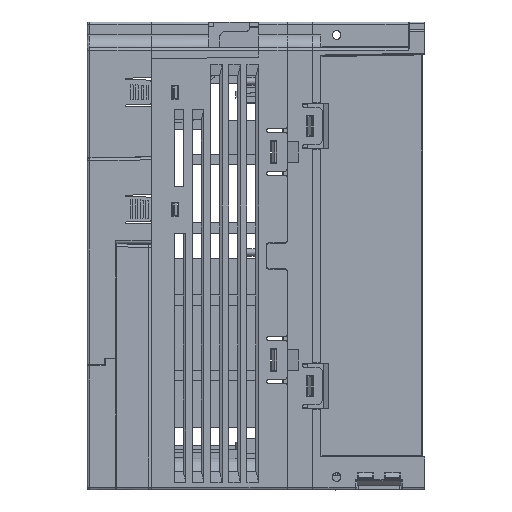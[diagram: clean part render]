
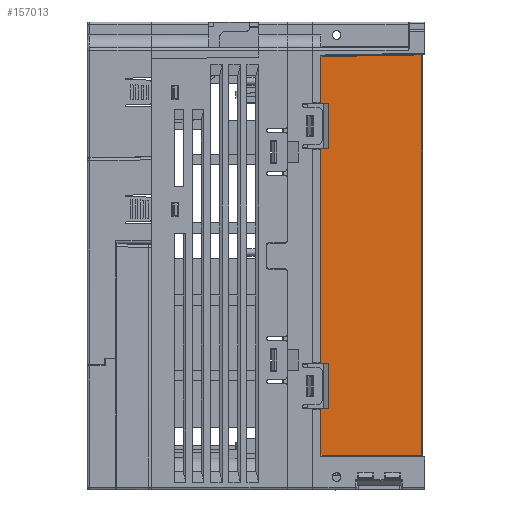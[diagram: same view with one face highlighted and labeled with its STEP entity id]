
A CAD part, left-side view. The second image highlights one B-rep face of the part: STEP entity #157013.
In plain terms, the highlighted planar face has unit normal (-1, 0, 0).
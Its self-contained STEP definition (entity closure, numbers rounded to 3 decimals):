
#36793 = VECTOR ( 'NONE', #153221, 1000. ) ;
#36804 = CIRCLE ( 'NONE', #198488, 0.3 ) ;
#36811 = LINE ( 'NONE', #153187, #36793 ) ;
#81589 = LINE ( 'NONE', #152683, #81636 ) ;
#81636 = VECTOR ( 'NONE', #152642, 1000. ) ;
#81965 = LINE ( 'NONE', #134111, #81982 ) ;
#81982 = VECTOR ( 'NONE', #134122, 1000. ) ;
#81986 = VECTOR ( 'NONE', #134228, 1000. ) ;
#82000 = LINE ( 'NONE', #133543, #82001 ) ;
#82001 = VECTOR ( 'NONE', #133563, 1000. ) ;
#82021 = LINE ( 'NONE', #134321, #81986 ) ;
#82035 = VECTOR ( 'NONE', #135727, 1000. ) ;
#82047 = LINE ( 'NONE', #135570, #82035 ) ;
#82115 = LINE ( 'NONE', #140803, #82138 ) ;
#82138 = VECTOR ( 'NONE', #140799, 1000. ) ;
#82287 = LINE ( 'NONE', #152755, #82398 ) ;
#82339 = LINE ( 'NONE', #152185, #82340 ) ;
#82340 = VECTOR ( 'NONE', #152182, 1000. ) ;
#82341 = LINE ( 'NONE', #152196, #82359 ) ;
#82343 = LINE ( 'NONE', #152112, #82346 ) ;
#82346 = VECTOR ( 'NONE', #152403, 1000. ) ;
#82353 = VECTOR ( 'NONE', #151483, 1000. ) ;
#82359 = VECTOR ( 'NONE', #152103, 1000. ) ;
#82368 = LINE ( 'NONE', #151297, #82353 ) ;
#82398 = VECTOR ( 'NONE', #152630, 1000. ) ;
#82416 = CIRCLE ( 'NONE', #198489, 0.3 ) ;
#82420 = CIRCLE ( 'NONE', #198542, 0.3 ) ;
#82476 = CIRCLE ( 'NONE', #198548, 0.3 ) ;
#96743 = FACE_OUTER_BOUND ( 'NONE', #97618, .T. ) ;
#97618 = EDGE_LOOP ( 'NONE', ( #135943, #135938, #135861, #135834, #135829, #135984, #135877, #135899, #135886, #135946, #135967, #135970, #135916, #135823, #135826, #135935 ) ) ;
#133543 = CARTESIAN_POINT ( 'NONE',  ( -33., -5., -13. ) ) ;
#133563 = DIRECTION ( 'NONE',  ( 0., 0., -1. ) ) ;
#134111 = CARTESIAN_POINT ( 'NONE',  ( -33., -43.7, -12.642 ) ) ;
#134122 = DIRECTION ( 'NONE',  ( 0., 1., -0.017 ) ) ;
#134228 = DIRECTION ( 'NONE',  ( 0., 0., -1. ) ) ;
#134321 = CARTESIAN_POINT ( 'NONE',  ( -33., -5., -13. ) ) ;
#135570 = CARTESIAN_POINT ( 'NONE',  ( -33., -44., -166.7 ) ) ;
#135727 = DIRECTION ( 'NONE',  ( 0., -1., 0. ) ) ;
#135823 = ORIENTED_EDGE ( 'NONE', *, *, #251333, .F. ) ;
#135826 = ORIENTED_EDGE ( 'NONE', *, *, #251319, .T. ) ;
#135829 = ORIENTED_EDGE ( 'NONE', *, *, #251615, .T. ) ;
#135834 = ORIENTED_EDGE ( 'NONE', *, *, #251685, .F. ) ;
#135861 = ORIENTED_EDGE ( 'NONE', *, *, #251158, .T. ) ;
#135877 = ORIENTED_EDGE ( 'NONE', *, *, #250271, .T. ) ;
#135886 = ORIENTED_EDGE ( 'NONE', *, *, #250034, .T. ) ;
#135899 = ORIENTED_EDGE ( 'NONE', *, *, #251466, .T. ) ;
#135916 = ORIENTED_EDGE ( 'NONE', *, *, #251489, .F. ) ;
#135935 = ORIENTED_EDGE ( 'NONE', *, *, #249975, .T. ) ;
#135938 = ORIENTED_EDGE ( 'NONE', *, *, #251328, .F. ) ;
#135943 = ORIENTED_EDGE ( 'NONE', *, *, #251439, .T. ) ;
#135946 = ORIENTED_EDGE ( 'NONE', *, *, #250299, .T. ) ;
#135967 = ORIENTED_EDGE ( 'NONE', *, *, #251311, .T. ) ;
#135970 = ORIENTED_EDGE ( 'NONE', *, *, #251323, .F. ) ;
#135984 = ORIENTED_EDGE ( 'NONE', *, *, #250068, .T. ) ;
#140799 = DIRECTION ( 'NONE',  ( 0., 0., -1. ) ) ;
#140803 = CARTESIAN_POINT ( 'NONE',  ( -33., -5., -13. ) ) ;
#143276 = CARTESIAN_POINT ( 'NONE',  ( -33., -43.7, -166.7 ) ) ;
#143294 = CARTESIAN_POINT ( 'NONE',  ( -33., -5., -166.7 ) ) ;
#143636 = CARTESIAN_POINT ( 'NONE',  ( -33., -5., -13.318 ) ) ;
#144130 = CARTESIAN_POINT ( 'NONE',  ( -33., -43.7, -12.642 ) ) ;
#144170 = CARTESIAN_POINT ( 'NONE',  ( -33., -5., -31. ) ) ;
#144513 = CARTESIAN_POINT ( 'NONE',  ( -33., -5., -149. ) ) ;
#144602 = CARTESIAN_POINT ( 'NONE',  ( -33., -5., -49. ) ) ;
#144654 = CARTESIAN_POINT ( 'NONE',  ( -33., -5., -131. ) ) ;
#151297 = CARTESIAN_POINT ( 'NONE',  ( -33., -8., -13. ) ) ;
#151483 = DIRECTION ( 'NONE',  ( 0., 0., -1. ) ) ;
#152089 = DIRECTION ( 'NONE',  ( 0., 0., 1. ) ) ;
#152095 = CARTESIAN_POINT ( 'NONE',  ( -33., -4.7, -31. ) ) ;
#152103 = DIRECTION ( 'NONE',  ( 0., 1., 0. ) ) ;
#152112 = CARTESIAN_POINT ( 'NONE',  ( -33., -6., -48.7 ) ) ;
#152140 = DIRECTION ( 'NONE',  ( 1., 0., 0. ) ) ;
#152178 = DIRECTION ( 'NONE',  ( 1., 0., 0. ) ) ;
#152182 = DIRECTION ( 'NONE',  ( 0., 1., 0. ) ) ;
#152185 = CARTESIAN_POINT ( 'NONE',  ( -33., 0., -31.3 ) ) ;
#152196 = CARTESIAN_POINT ( 'NONE',  ( -33., 0., -131.3 ) ) ;
#152209 = DIRECTION ( 'NONE',  ( 0., 0., -1. ) ) ;
#152270 = CARTESIAN_POINT ( 'NONE',  ( -33., -4.7, -49. ) ) ;
#152403 = DIRECTION ( 'NONE',  ( 0., -1., 0. ) ) ;
#152532 = DIRECTION ( 'NONE',  ( 1., 0., 0. ) ) ;
#152553 = DIRECTION ( 'NONE',  ( 0., 0., -1. ) ) ;
#152594 = CARTESIAN_POINT ( 'NONE',  ( -33., -4.7, -131. ) ) ;
#152630 = DIRECTION ( 'NONE',  ( 0., 0., 1. ) ) ;
#152642 = DIRECTION ( 'NONE',  ( 0., 0., 1. ) ) ;
#152683 = CARTESIAN_POINT ( 'NONE',  ( -33., -43.7, -13. ) ) ;
#152755 = CARTESIAN_POINT ( 'NONE',  ( -33., -8., -40. ) ) ;
#152778 = CARTESIAN_POINT ( 'NONE',  ( -33., -4.7, -31.3 ) ) ;
#152788 = CARTESIAN_POINT ( 'NONE',  ( -33., -8., -31.3 ) ) ;
#152870 = CARTESIAN_POINT ( 'NONE',  ( -33., -8., -148.7 ) ) ;
#153002 = CARTESIAN_POINT ( 'NONE',  ( -33., -8., -131.3 ) ) ;
#153024 = CARTESIAN_POINT ( 'NONE',  ( -33., -4.7, -149. ) ) ;
#153032 = DIRECTION ( 'NONE',  ( 0., 0., 1. ) ) ;
#153119 = DIRECTION ( 'NONE',  ( 1., 0., 0. ) ) ;
#153123 = CARTESIAN_POINT ( 'NONE',  ( -33., -4.7, -148.7 ) ) ;
#153154 = CARTESIAN_POINT ( 'NONE',  ( -33., -4.7, -131.3 ) ) ;
#153187 = CARTESIAN_POINT ( 'NONE',  ( -33., -6., -148.7 ) ) ;
#153221 = DIRECTION ( 'NONE',  ( 0., -1., 0. ) ) ;
#153249 = CARTESIAN_POINT ( 'NONE',  ( -33., -4.7, -48.7 ) ) ;
#153383 = CARTESIAN_POINT ( 'NONE',  ( -33., -8., -48.7 ) ) ;
#157013 = ADVANCED_FACE ( 'NONE', ( #96743 ), #235256, .T. ) ;
#187427 = AXIS2_PLACEMENT_3D ( 'NONE', #235216, #235223, #235219 ) ;
#198488 = AXIS2_PLACEMENT_3D ( 'NONE', #153024, #153119, #153032 ) ;
#198489 = AXIS2_PLACEMENT_3D ( 'NONE', #152095, #152178, #152209 ) ;
#198542 = AXIS2_PLACEMENT_3D ( 'NONE', #152270, #152140, #152089 ) ;
#198548 = AXIS2_PLACEMENT_3D ( 'NONE', #152594, #152532, #152553 ) ;
#235216 = CARTESIAN_POINT ( 'NONE',  ( -33., -44., -13. ) ) ;
#235219 = DIRECTION ( 'NONE',  ( 0., 0., 1. ) ) ;
#235223 = DIRECTION ( 'NONE',  ( -1., 0., 0. ) ) ;
#235256 = PLANE ( 'NONE',  #187427 ) ;
#249975 = EDGE_CURVE ( 'NONE', #250970, #250964, #82000, .T. ) ;
#250034 = EDGE_CURVE ( 'NONE', #250880, #250785, #81965, .T. ) ;
#250068 = EDGE_CURVE ( 'NONE', #250937, #250761, #82021, .T. ) ;
#250271 = EDGE_CURVE ( 'NONE', #250761, #250774, #82047, .T. ) ;
#250299 = EDGE_CURVE ( 'NONE', #250785, #250869, #82115, .T. ) ;
#250761 = VERTEX_POINT ( 'NONE', #143294 ) ;
#250774 = VERTEX_POINT ( 'NONE', #143276 ) ;
#250785 = VERTEX_POINT ( 'NONE', #143636 ) ;
#250869 = VERTEX_POINT ( 'NONE', #144170 ) ;
#250880 = VERTEX_POINT ( 'NONE', #144130 ) ;
#250937 = VERTEX_POINT ( 'NONE', #144513 ) ;
#250964 = VERTEX_POINT ( 'NONE', #144654 ) ;
#250970 = VERTEX_POINT ( 'NONE', #144602 ) ;
#251158 = EDGE_CURVE ( 'NONE', #251621, #251535, #82368, .T. ) ;
#251311 = EDGE_CURVE ( 'NONE', #250869, #251487, #82416, .T. ) ;
#251319 = EDGE_CURVE ( 'NONE', #251690, #250970, #82420, .T. ) ;
#251323 = EDGE_CURVE ( 'NONE', #251495, #251487, #82339, .T. ) ;
#251328 = EDGE_CURVE ( 'NONE', #251621, #251599, #82341, .T. ) ;
#251333 = EDGE_CURVE ( 'NONE', #251690, #251714, #82343, .T. ) ;
#251439 = EDGE_CURVE ( 'NONE', #250964, #251599, #82476, .T. ) ;
#251466 = EDGE_CURVE ( 'NONE', #250774, #250880, #81589, .T. ) ;
#251487 = VERTEX_POINT ( 'NONE', #152778 ) ;
#251489 = EDGE_CURVE ( 'NONE', #251714, #251495, #82287, .T. ) ;
#251495 = VERTEX_POINT ( 'NONE', #152788 ) ;
#251535 = VERTEX_POINT ( 'NONE', #152870 ) ;
#251586 = VERTEX_POINT ( 'NONE', #153123 ) ;
#251599 = VERTEX_POINT ( 'NONE', #153154 ) ;
#251615 = EDGE_CURVE ( 'NONE', #251586, #250937, #36804, .T. ) ;
#251621 = VERTEX_POINT ( 'NONE', #153002 ) ;
#251685 = EDGE_CURVE ( 'NONE', #251586, #251535, #36811, .T. ) ;
#251690 = VERTEX_POINT ( 'NONE', #153249 ) ;
#251714 = VERTEX_POINT ( 'NONE', #153383 ) ;
